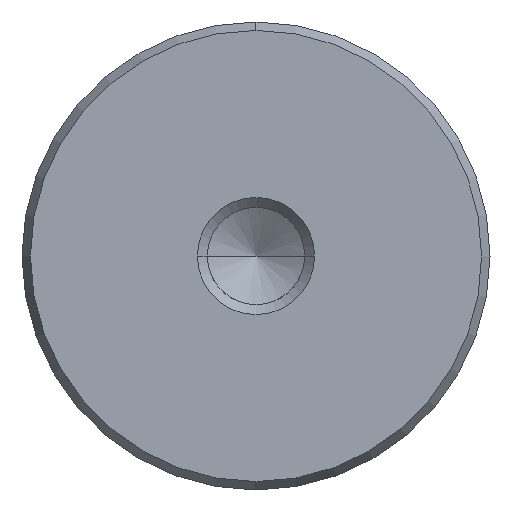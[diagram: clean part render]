
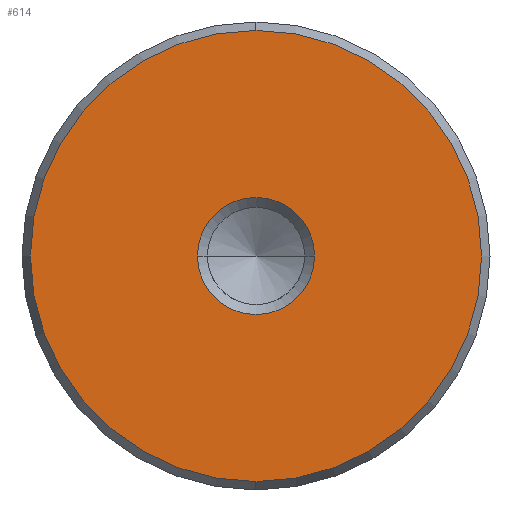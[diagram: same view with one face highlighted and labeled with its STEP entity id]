
A CAD part, left-side view. The second image highlights one B-rep face of the part: STEP entity #614.
In plain terms, the highlighted planar face has unit normal (-1, 0, 0).
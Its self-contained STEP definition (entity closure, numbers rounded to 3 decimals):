
#528=CARTESIAN_POINT('Vertex',(0.,0.,-15.423)) ;
#531=CARTESIAN_POINT('Axis2P3D Location',(0.,0.,0.)) ;
#535=CARTESIAN_POINT('Vertex',(0.,15.423,0.)) ;
#538=CARTESIAN_POINT('Axis2P3D Location',(0.,0.,0.)) ;
#542=CARTESIAN_POINT('Vertex',(0.,0.,15.423)) ;
#564=CARTESIAN_POINT('Axis2P3D Location',(0.,0.,0.)) ;
#568=CARTESIAN_POINT('Vertex',(0.,-15.423,0.)) ;
#571=CARTESIAN_POINT('Axis2P3D Location',(0.,0.,0.)) ;
#585=CARTESIAN_POINT('Axis2P3D Location',(0.,0.,0.)) ;
#596=CARTESIAN_POINT('Axis2P3D Location',(0.,0.,0.)) ;
#600=CARTESIAN_POINT('Vertex',(0.,4.,0.)) ;
#602=CARTESIAN_POINT('Vertex',(0.,-4.,0.)) ;
#605=CARTESIAN_POINT('Axis2P3D Location',(0.,0.,0.)) ;
#532=DIRECTION('Axis2P3D Direction',(1.,0.,-0.)) ;
#539=DIRECTION('Axis2P3D Direction',(1.,0.,-0.)) ;
#565=DIRECTION('Axis2P3D Direction',(1.,0.,-0.)) ;
#572=DIRECTION('Axis2P3D Direction',(1.,0.,-0.)) ;
#586=DIRECTION('Axis2P3D Direction',(1.,0.,-0.)) ;
#587=DIRECTION('Axis2P3D XDirection',(-0.,0.,-1.)) ;
#597=DIRECTION('Axis2P3D Direction',(1.,0.,-0.)) ;
#606=DIRECTION('Axis2P3D Direction',(1.,0.,-0.)) ;
#533=AXIS2_PLACEMENT_3D('Circle Axis2P3D',#531,#532,$) ;
#540=AXIS2_PLACEMENT_3D('Circle Axis2P3D',#538,#539,$) ;
#566=AXIS2_PLACEMENT_3D('Circle Axis2P3D',#564,#565,$) ;
#573=AXIS2_PLACEMENT_3D('Circle Axis2P3D',#571,#572,$) ;
#588=AXIS2_PLACEMENT_3D('Plane Axis2P3D',#585,#586,#587) ;
#598=AXIS2_PLACEMENT_3D('Circle Axis2P3D',#596,#597,$) ;
#607=AXIS2_PLACEMENT_3D('Circle Axis2P3D',#605,#606,$) ;
#591=ORIENTED_EDGE('',*,*,#537,.F.) ;
#592=ORIENTED_EDGE('',*,*,#575,.F.) ;
#593=ORIENTED_EDGE('',*,*,#570,.F.) ;
#594=ORIENTED_EDGE('',*,*,#544,.F.) ;
#611=ORIENTED_EDGE('',*,*,#604,.T.) ;
#612=ORIENTED_EDGE('',*,*,#609,.T.) ;
#613=FACE_BOUND('',#610,.T.) ;
#614=ADVANCED_FACE('720-32x200',(#595,#613),#589,.F.) ;
#534=CIRCLE('generated circle',#533,15.423) ;
#541=CIRCLE('generated circle',#540,15.423) ;
#567=CIRCLE('generated circle',#566,15.423) ;
#574=CIRCLE('generated circle',#573,15.423) ;
#599=CIRCLE('generated circle',#598,4.) ;
#608=CIRCLE('generated circle',#607,4.) ;
#537=EDGE_CURVE('',#529,#536,#534,.T.) ;
#544=EDGE_CURVE('',#536,#543,#541,.T.) ;
#570=EDGE_CURVE('',#543,#569,#567,.T.) ;
#575=EDGE_CURVE('',#569,#529,#574,.T.) ;
#604=EDGE_CURVE('',#601,#603,#599,.T.) ;
#609=EDGE_CURVE('',#603,#601,#608,.T.) ;
#590=EDGE_LOOP('',(#591,#592,#593,#594)) ;
#610=EDGE_LOOP('',(#611,#612)) ;
#595=FACE_OUTER_BOUND('',#590,.T.) ;
#589=PLANE('Plane',#588) ;
#529=VERTEX_POINT('',#528) ;
#536=VERTEX_POINT('',#535) ;
#543=VERTEX_POINT('',#542) ;
#569=VERTEX_POINT('',#568) ;
#601=VERTEX_POINT('',#600) ;
#603=VERTEX_POINT('',#602) ;
